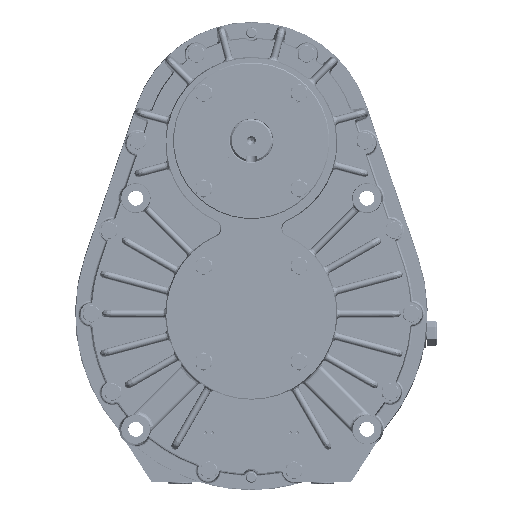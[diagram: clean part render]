
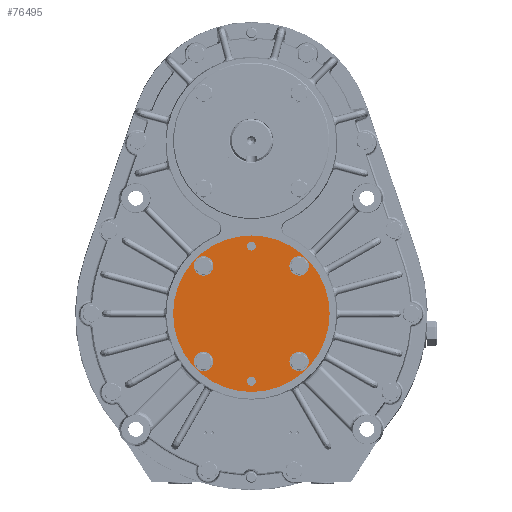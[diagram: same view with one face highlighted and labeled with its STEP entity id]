
A CAD part, top view. The second image highlights one B-rep face of the part: STEP entity #76495.
In plain terms, the highlighted planar face has unit normal (0, 0, 1) as drawn and (-1, 0, 0) by its records, which use the part's own axes.
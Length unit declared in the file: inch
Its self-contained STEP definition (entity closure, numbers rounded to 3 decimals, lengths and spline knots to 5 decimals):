
#217 = FACE_BOUND ( 'NONE', #76644, .T. ) ;
#1396 = DIRECTION ( 'NONE',  ( 0., 0., 1. ) ) ;
#2855 = DIRECTION ( 'NONE',  ( 0., 0., 1. ) ) ;
#2957 = DIRECTION ( 'NONE',  ( 0., 0., 1. ) ) ;
#3732 = VERTEX_POINT ( 'NONE', #81231 ) ;
#5582 = FACE_BOUND ( 'NONE', #36131, .T. ) ;
#5831 = EDGE_CURVE ( 'NONE', #97042, #55796, #40753, .T. ) ;
#10942 = EDGE_CURVE ( 'NONE', #3732, #26587, #34533, .T. ) ;
#11401 = CIRCLE ( 'NONE', #93353, 0.203 ) ;
#11646 = CIRCLE ( 'NONE', #33770, 2.75 ) ;
#12510 = ORIENTED_EDGE ( 'NONE', *, *, #16988, .F. ) ;
#12938 = DIRECTION ( 'NONE',  ( -1., 0., 0. ) ) ;
#14368 = ORIENTED_EDGE ( 'NONE', *, *, #99875, .F. ) ;
#14720 = CIRCLE ( 'NONE', #90377, 0.203 ) ;
#14980 = CARTESIAN_POINT ( 'NONE',  ( 0., 0., 2.75 ) ) ;
#15814 = AXIS2_PLACEMENT_3D ( 'NONE', #64613, #12938, #73274 ) ;
#15998 = CARTESIAN_POINT ( 'NONE',  ( 0., 0., -2.75 ) ) ;
#16985 = DIRECTION ( 'NONE',  ( 0., 0., 1. ) ) ;
#16988 = EDGE_CURVE ( 'NONE', #78406, #35257, #102245, .T. ) ;
#17253 = DIRECTION ( 'NONE',  ( -1., 0., 0. ) ) ;
#17725 = CARTESIAN_POINT ( 'NONE',  ( 0., -1.67938, -1.67938 ) ) ;
#17843 = EDGE_LOOP ( 'NONE', ( #12510, #98266 ) ) ;
#19110 = EDGE_LOOP ( 'NONE', ( #14368, #24433 ) ) ;
#19656 = VERTEX_POINT ( 'NONE', #45435 ) ;
#21950 = VERTEX_POINT ( 'NONE', #15998 ) ;
#22952 = FACE_BOUND ( 'NONE', #109817, .T. ) ;
#22978 = ORIENTED_EDGE ( 'NONE', *, *, #96356, .F. ) ;
#23039 = EDGE_LOOP ( 'NONE', ( #98894, #25111 ) ) ;
#23486 = CIRCLE ( 'NONE', #68488, 0.203 ) ;
#24433 = ORIENTED_EDGE ( 'NONE', *, *, #88565, .F. ) ;
#25111 = ORIENTED_EDGE ( 'NONE', *, *, #84954, .F. ) ;
#25700 = EDGE_CURVE ( 'NONE', #26587, #3732, #14720, .T. ) ;
#26587 = VERTEX_POINT ( 'NONE', #59465 ) ;
#27432 = CIRCLE ( 'NONE', #77678, 2.75 ) ;
#27869 = CARTESIAN_POINT ( 'NONE',  ( 0., 0., -2.531 ) ) ;
#28199 = EDGE_CURVE ( 'NONE', #34116, #44746, #52150, .T. ) ;
#29702 = CARTESIAN_POINT ( 'NONE',  ( 0., 1.67938, -1.47638 ) ) ;
#30103 = EDGE_CURVE ( 'NONE', #21950, #43336, #11646, .T. ) ;
#30954 = ORIENTED_EDGE ( 'NONE', *, *, #28199, .F. ) ;
#31229 = EDGE_CURVE ( 'NONE', #44746, #34116, #64106, .T. ) ;
#31282 = ORIENTED_EDGE ( 'NONE', *, *, #10942, .F. ) ;
#33770 = AXIS2_PLACEMENT_3D ( 'NONE', #34311, #94389, #43060 ) ;
#34116 = VERTEX_POINT ( 'NONE', #41468 ) ;
#34311 = CARTESIAN_POINT ( 'NONE',  ( 0., 0., 0. ) ) ;
#34533 = CIRCLE ( 'NONE', #66703, 0.203 ) ;
#35257 = VERTEX_POINT ( 'NONE', #27869 ) ;
#35476 = DIRECTION ( 'NONE',  ( -1., 0., 0. ) ) ;
#36131 = EDGE_LOOP ( 'NONE', ( #30954, #54763 ) ) ;
#36919 = EDGE_LOOP ( 'NONE', ( #49403, #100052 ) ) ;
#36948 = ORIENTED_EDGE ( 'NONE', *, *, #55803, .F. ) ;
#37213 = CARTESIAN_POINT ( 'NONE',  ( 0., 1.67938, 1.67938 ) ) ;
#38818 = DIRECTION ( 'NONE',  ( -1., 0., 0. ) ) ;
#39563 = CARTESIAN_POINT ( 'NONE',  ( 0., 1.67938, 1.47638 ) ) ;
#39951 = DIRECTION ( 'NONE',  ( -1., 0., 0. ) ) ;
#40753 = CIRCLE ( 'NONE', #106320, 0.203 ) ;
#41468 = CARTESIAN_POINT ( 'NONE',  ( 0., 0., 2.531 ) ) ;
#43060 = DIRECTION ( 'NONE',  ( 0., 0., -1. ) ) ;
#43336 = VERTEX_POINT ( 'NONE', #14980 ) ;
#44746 = VERTEX_POINT ( 'NONE', #98522 ) ;
#45121 = CARTESIAN_POINT ( 'NONE',  ( 0., 0., 0. ) ) ;
#45435 = CARTESIAN_POINT ( 'NONE',  ( 0., -1.67938, 1.47638 ) ) ;
#45916 = DIRECTION ( 'NONE',  ( 0., 0., 1. ) ) ;
#45995 = FACE_BOUND ( 'NONE', #17843, .T. ) ;
#46739 = DIRECTION ( 'NONE',  ( -1., 0., 0. ) ) ;
#48730 = FACE_BOUND ( 'NONE', #19110, .T. ) ;
#49403 = ORIENTED_EDGE ( 'NONE', *, *, #56979, .F. ) ;
#50266 = DIRECTION ( 'NONE',  ( 0., 0., 1. ) ) ;
#50364 = DIRECTION ( 'NONE',  ( -1., 0., 0. ) ) ;
#50473 = CARTESIAN_POINT ( 'NONE',  ( 0., 1.67938, -1.67938 ) ) ;
#50485 = CARTESIAN_POINT ( 'NONE',  ( 0., 1.67938, -1.67938 ) ) ;
#52150 = CIRCLE ( 'NONE', #94776, 0.156 ) ;
#52887 = DIRECTION ( 'NONE',  ( -1., 0., 0. ) ) ;
#53725 = DIRECTION ( 'NONE',  ( 0., 0., -1. ) ) ;
#54380 = DIRECTION ( 'NONE',  ( -1., 0., 0. ) ) ;
#54494 = DIRECTION ( 'NONE',  ( -1., 0., 0. ) ) ;
#54763 = ORIENTED_EDGE ( 'NONE', *, *, #31229, .F. ) ;
#55796 = VERTEX_POINT ( 'NONE', #29702 ) ;
#55803 = EDGE_CURVE ( 'NONE', #93476, #62403, #66440, .T. ) ;
#56979 = EDGE_CURVE ( 'NONE', #55796, #97042, #104932, .T. ) ;
#58033 = DIRECTION ( 'NONE',  ( 0., 0., -1. ) ) ;
#59144 = DIRECTION ( 'NONE',  ( 0., 0., 1. ) ) ;
#59216 = AXIS2_PLACEMENT_3D ( 'NONE', #105702, #54494, #2957 ) ;
#59465 = CARTESIAN_POINT ( 'NONE',  ( 0., -1.67938, -1.88238 ) ) ;
#60490 = EDGE_CURVE ( 'NONE', #35257, #78406, #74034, .T. ) ;
#61211 = AXIS2_PLACEMENT_3D ( 'NONE', #91370, #39951, #99909 ) ;
#62403 = VERTEX_POINT ( 'NONE', #39563 ) ;
#63822 = CARTESIAN_POINT ( 'NONE',  ( 0., 1.67938, 1.88238 ) ) ;
#64106 = CIRCLE ( 'NONE', #15814, 0.156 ) ;
#64613 = CARTESIAN_POINT ( 'NONE',  ( 0., 0., 2.375 ) ) ;
#66210 = FACE_OUTER_BOUND ( 'NONE', #23039, .T. ) ;
#66440 = CIRCLE ( 'NONE', #104054, 0.203 ) ;
#66703 = AXIS2_PLACEMENT_3D ( 'NONE', #17725, #17253, #16985 ) ;
#68488 = AXIS2_PLACEMENT_3D ( 'NONE', #98018, #46739, #106548 ) ;
#73274 = DIRECTION ( 'NONE',  ( 0., 0., 1. ) ) ;
#74034 = CIRCLE ( 'NONE', #59216, 0.156 ) ;
#74964 = PLANE ( 'NONE',  #80819 ) ;
#76495 = ADVANCED_FACE ( 'NONE', ( #5582, #22952, #45995, #48730, #217, #88932, #66210 ), #74964, .F. ) ;
#76644 = EDGE_LOOP ( 'NONE', ( #31282, #78230 ) ) ;
#77678 = AXIS2_PLACEMENT_3D ( 'NONE', #45121, #104965, #53725 ) ;
#78230 = ORIENTED_EDGE ( 'NONE', *, *, #25700, .F. ) ;
#78406 = VERTEX_POINT ( 'NONE', #85143 ) ;
#80684 = CARTESIAN_POINT ( 'NONE',  ( 0., -1.67938, 1.88238 ) ) ;
#80819 = AXIS2_PLACEMENT_3D ( 'NONE', #92095, #109166, #58033 ) ;
#81231 = CARTESIAN_POINT ( 'NONE',  ( 0., -1.67938, -1.47638 ) ) ;
#84003 = CARTESIAN_POINT ( 'NONE',  ( 0., 1.67938, -1.88238 ) ) ;
#84954 = EDGE_CURVE ( 'NONE', #43336, #21950, #27432, .T. ) ;
#85143 = CARTESIAN_POINT ( 'NONE',  ( 0., 0., -2.219 ) ) ;
#86991 = CARTESIAN_POINT ( 'NONE',  ( 0., -1.67938, 1.67938 ) ) ;
#87880 = VERTEX_POINT ( 'NONE', #80684 ) ;
#88565 = EDGE_CURVE ( 'NONE', #19656, #87880, #91746, .T. ) ;
#88932 = FACE_BOUND ( 'NONE', #36919, .T. ) ;
#90251 = CARTESIAN_POINT ( 'NONE',  ( 0., 1.67938, 1.67938 ) ) ;
#90377 = AXIS2_PLACEMENT_3D ( 'NONE', #104136, #52887, #1396 ) ;
#91370 = CARTESIAN_POINT ( 'NONE',  ( 0., 0., -2.375 ) ) ;
#91746 = CIRCLE ( 'NONE', #103601, 0.203 ) ;
#92095 = CARTESIAN_POINT ( 'NONE',  ( 0., 0., 0. ) ) ;
#93353 = AXIS2_PLACEMENT_3D ( 'NONE', #37213, #97226, #45916 ) ;
#93476 = VERTEX_POINT ( 'NONE', #63822 ) ;
#94389 = DIRECTION ( 'NONE',  ( 1., 0., 0. ) ) ;
#94776 = AXIS2_PLACEMENT_3D ( 'NONE', #105612, #54380, #2855 ) ;
#95536 = DIRECTION ( 'NONE',  ( 0., 0., 1. ) ) ;
#96356 = EDGE_CURVE ( 'NONE', #62403, #93476, #11401, .T. ) ;
#97042 = VERTEX_POINT ( 'NONE', #84003 ) ;
#97226 = DIRECTION ( 'NONE',  ( -1., 0., 0. ) ) ;
#97723 = AXIS2_PLACEMENT_3D ( 'NONE', #50473, #110286, #59144 ) ;
#98018 = CARTESIAN_POINT ( 'NONE',  ( 0., -1.67938, 1.67938 ) ) ;
#98266 = ORIENTED_EDGE ( 'NONE', *, *, #60490, .F. ) ;
#98522 = CARTESIAN_POINT ( 'NONE',  ( 0., 0., 2.219 ) ) ;
#98809 = DIRECTION ( 'NONE',  ( 0., 0., 1. ) ) ;
#98894 = ORIENTED_EDGE ( 'NONE', *, *, #30103, .F. ) ;
#99875 = EDGE_CURVE ( 'NONE', #87880, #19656, #23486, .T. ) ;
#99909 = DIRECTION ( 'NONE',  ( 0., 0., 1. ) ) ;
#100052 = ORIENTED_EDGE ( 'NONE', *, *, #5831, .F. ) ;
#102245 = CIRCLE ( 'NONE', #61211, 0.156 ) ;
#103601 = AXIS2_PLACEMENT_3D ( 'NONE', #86991, #35476, #95536 ) ;
#104054 = AXIS2_PLACEMENT_3D ( 'NONE', #90251, #38818, #98809 ) ;
#104136 = CARTESIAN_POINT ( 'NONE',  ( 0., -1.67938, -1.67938 ) ) ;
#104932 = CIRCLE ( 'NONE', #97723, 0.203 ) ;
#104965 = DIRECTION ( 'NONE',  ( 1., 0., 0. ) ) ;
#105612 = CARTESIAN_POINT ( 'NONE',  ( 0., 0., 2.375 ) ) ;
#105702 = CARTESIAN_POINT ( 'NONE',  ( 0., 0., -2.375 ) ) ;
#106320 = AXIS2_PLACEMENT_3D ( 'NONE', #50485, #50364, #50266 ) ;
#106548 = DIRECTION ( 'NONE',  ( 0., 0., 1. ) ) ;
#109166 = DIRECTION ( 'NONE',  ( 1., 0., 0. ) ) ;
#109817 = EDGE_LOOP ( 'NONE', ( #36948, #22978 ) ) ;
#110286 = DIRECTION ( 'NONE',  ( -1., 0., 0. ) ) ;
